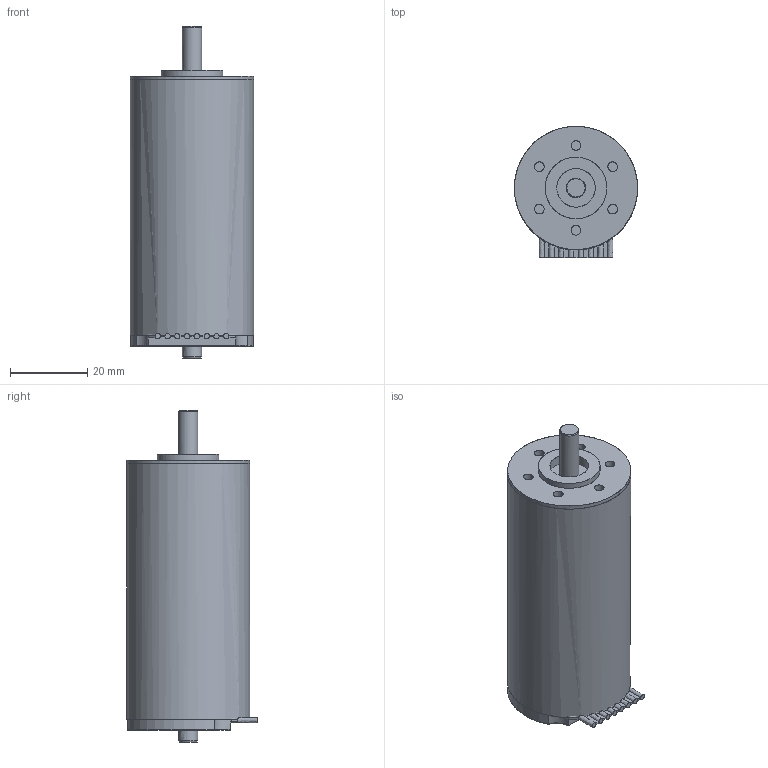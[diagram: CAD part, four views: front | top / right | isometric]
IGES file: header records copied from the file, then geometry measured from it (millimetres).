
Global section: file name: R:\a_public\Organisationsentwicklung\Aufgaben\CAD_Modelle_Vertrieb\Motor\32xx_BX4\3268.BX4.igs; native system: NX V7.5; preprocessor: SIEMENS PLM Software NX 7.5; author: DR. FRITZ FAULHABER GmbH & Co. KG; organization: DR. FRITZ FAULHABER GmbH & Co. KG; date: 20121031.103639; units: millimetre
Bounding box: 32 x 34 x 86.2 mm (x, y, z)
Surface area: 9471.4 mm2 (no closed solid volume)
Topology: 0 solids, 0 shells, 118 faces, 895 edges, 867 vertices
Faces by surface type: bspline 118
